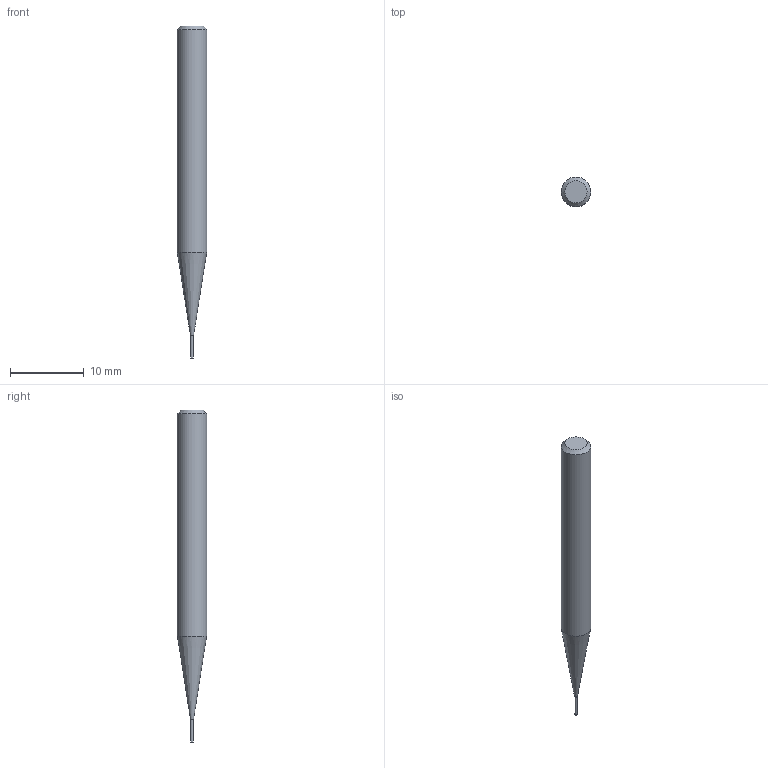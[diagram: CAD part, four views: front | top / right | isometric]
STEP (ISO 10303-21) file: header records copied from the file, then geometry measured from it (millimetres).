
FILE_DESCRIPTION((''),'2;1');
FILE_NAME('C:\Users\nsx150\Desktop\RSE230_20210427\01-00644-00402 RSE230 D0_4X3.step','2021-05-07T14:52:35',(''),(''),'STEP Write','Mastercam 2021 ... CNC Software, Inc.','');
FILE_SCHEMA(('AUTOMOTIVE_DESIGN'));
Length unit declared in the file: millimetre
Products named in the file (1): None
Bounding box: 4 x 4 x 45 mm (x, y, z)
Volume: 436.8 mm3; surface area: 477.2 mm2
Topology: 2 solids, 2 shells, 8 faces, 10 edges, 6 vertices
Faces by surface type: plane 4, cylinder 2, cone 2
Full cylindrical faces by diameter (mm): 0.4 x1, 4 x1
Entity records: 190 total; most frequent: DIRECTION 32, CARTESIAN_POINT 22, AXIS2_PLACEMENT_3D 16, ORIENTED_EDGE 12, EDGE_LOOP 12, STYLED_ITEM 11, ADVANCED_FACE 8, VERTEX_POINT 6
